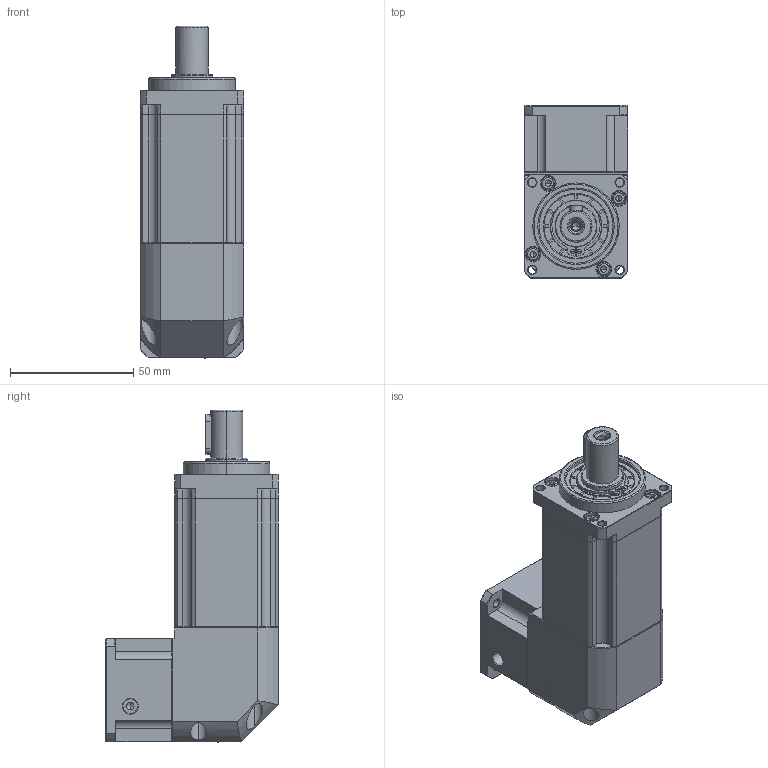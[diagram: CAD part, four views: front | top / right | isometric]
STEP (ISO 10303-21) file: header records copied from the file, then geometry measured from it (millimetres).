
FILE_DESCRIPTION (( 'STEP AP214' ), '1' );
FILE_NAME ('ZBR40-L3-P2-5-22-31X31-3.5.STEP', '2023-06-06T13:14:24', ( 'Windows 蚚誧' ), ( 'Organization' ), 'SwSTEP 2.0', 'SolidWorks 2016', '' );
FILE_SCHEMA (( 'AUTOMOTIVE_DESIGN' ));
Length unit declared in the file: millimetre
Products named in the file (1): ZBR40-L3-P2-5-22-31X31-3.5
Bounding box: 42 x 70 x 134.5 mm (x, y, z)
Volume: 202177.5 mm3; surface area: 45708.6 mm2
Topology: 7 solids, 7 shells, 2377 faces, 6336 edges, 4105 vertices
Faces by surface type: plane 1257, bspline 555, cylinder 295, cone 270
Entity records: 123778 total; most frequent: CARTESIAN_POINT 42184, ORIENTED_EDGE 12644, DIRECTION 9368, EDGE_CURVE 6322, LINE 4178, VECTOR 4178, VERTEX_POINT 4105, AXIS2_PLACEMENT_3D 2595
